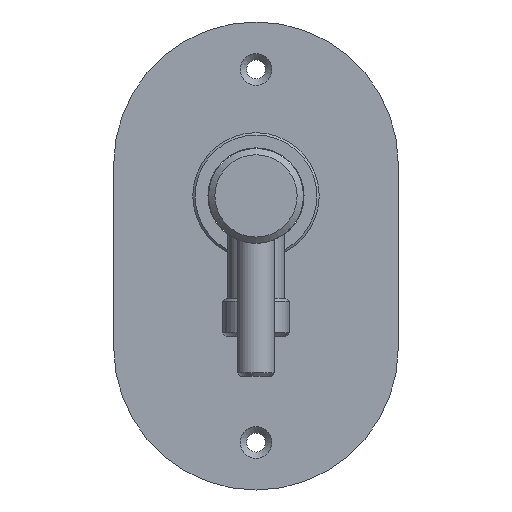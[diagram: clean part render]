
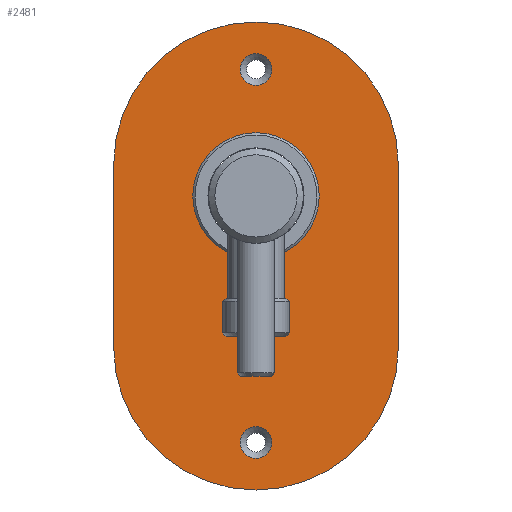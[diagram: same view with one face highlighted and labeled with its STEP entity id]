
A CAD part, left-side view. The second image highlights one B-rep face of the part: STEP entity #2481.
In plain terms, the highlighted planar face has unit normal (-1, 0, 0) as drawn and (0, 0, 1) by its records, which use the part's own axes.
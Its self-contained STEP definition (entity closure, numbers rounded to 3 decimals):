
#193=FACE_BOUND('',#672,.T.);
#194=FACE_BOUND('',#673,.T.);
#195=FACE_BOUND('',#674,.T.);
#279=PLANE('',#3038);
#482=FACE_OUTER_BOUND('',#671,.T.);
#671=EDGE_LOOP('',(#2297,#2298,#2299,#2300));
#672=EDGE_LOOP('',(#2301));
#673=EDGE_LOOP('',(#2302));
#674=EDGE_LOOP('',(#2303));
#814=LINE('',#4890,#955);
#818=LINE('',#4901,#959);
#955=VECTOR('',#3826,10.);
#959=VECTOR('',#3838,10.);
#1104=CIRCLE('',#3022,5.);
#1106=CIRCLE('',#3025,5.);
#1109=CIRCLE('',#3029,17.5);
#1110=CIRCLE('',#3031,45.);
#1112=CIRCLE('',#3035,45.);
#1313=VERTEX_POINT('',#4862);
#1315=VERTEX_POINT('',#4868);
#1318=VERTEX_POINT('',#4876);
#1319=VERTEX_POINT('',#4880);
#1320=VERTEX_POINT('',#4881);
#1323=VERTEX_POINT('',#4889);
#1325=VERTEX_POINT('',#4895);
#1634=EDGE_CURVE('',#1313,#1313,#1104,.T.);
#1637=EDGE_CURVE('',#1315,#1315,#1106,.T.);
#1642=EDGE_CURVE('',#1318,#1318,#1109,.T.);
#1643=EDGE_CURVE('',#1319,#1320,#1110,.T.);
#1647=EDGE_CURVE('',#1320,#1323,#814,.T.);
#1650=EDGE_CURVE('',#1323,#1325,#1112,.T.);
#1653=EDGE_CURVE('',#1325,#1319,#818,.T.);
#2297=ORIENTED_EDGE('',*,*,#1643,.F.);
#2298=ORIENTED_EDGE('',*,*,#1653,.F.);
#2299=ORIENTED_EDGE('',*,*,#1650,.F.);
#2300=ORIENTED_EDGE('',*,*,#1647,.F.);
#2301=ORIENTED_EDGE('',*,*,#1634,.T.);
#2302=ORIENTED_EDGE('',*,*,#1637,.T.);
#2303=ORIENTED_EDGE('',*,*,#1642,.T.);
#2481=ADVANCED_FACE('',(#482,#193,#194,#195),#279,.T.);
#3022=AXIS2_PLACEMENT_3D('',#4863,#3797,#3798);
#3025=AXIS2_PLACEMENT_3D('',#4869,#3804,#3805);
#3029=AXIS2_PLACEMENT_3D('',#4878,#3814,#3815);
#3031=AXIS2_PLACEMENT_3D('',#4882,#3818,#3819);
#3035=AXIS2_PLACEMENT_3D('',#4896,#3831,#3832);
#3038=AXIS2_PLACEMENT_3D('',#4903,#3840,#3841);
#3797=DIRECTION('center_axis',(0.,0.,-1.));
#3798=DIRECTION('ref_axis',(1.,0.,0.));
#3804=DIRECTION('center_axis',(0.,0.,-1.));
#3805=DIRECTION('ref_axis',(1.,0.,0.));
#3814=DIRECTION('center_axis',(0.,0.,-1.));
#3815=DIRECTION('ref_axis',(-1.,0.,0.));
#3818=DIRECTION('center_axis',(0.,0.,-1.));
#3819=DIRECTION('ref_axis',(1.,0.,0.));
#3826=DIRECTION('',(0.,1.,0.));
#3831=DIRECTION('center_axis',(0.,0.,-1.));
#3832=DIRECTION('ref_axis',(-1.,0.,0.));
#3838=DIRECTION('',(0.,-1.,0.));
#3840=DIRECTION('center_axis',(0.,0.,1.));
#3841=DIRECTION('ref_axis',(1.,0.,0.));
#4862=CARTESIAN_POINT('',(-5.,-78.,2.));
#4863=CARTESIAN_POINT('Origin',(0.,-78.,2.));
#4868=CARTESIAN_POINT('',(-5.,40.,2.));
#4869=CARTESIAN_POINT('Origin',(0.,40.,2.));
#4876=CARTESIAN_POINT('',(17.5,0.,2.));
#4878=CARTESIAN_POINT('Origin',(0.,0.,2.));
#4880=CARTESIAN_POINT('',(45.,-48.,2.));
#4881=CARTESIAN_POINT('',(-45.,-48.,2.));
#4882=CARTESIAN_POINT('Origin',(0.,-48.,2.));
#4889=CARTESIAN_POINT('',(-45.,10.,2.));
#4890=CARTESIAN_POINT('',(-45.,-48.,2.));
#4895=CARTESIAN_POINT('',(45.,10.,2.));
#4896=CARTESIAN_POINT('Origin',(0.,10.,2.));
#4901=CARTESIAN_POINT('',(45.,10.,2.));
#4903=CARTESIAN_POINT('Origin',(0.,-19.,2.));
